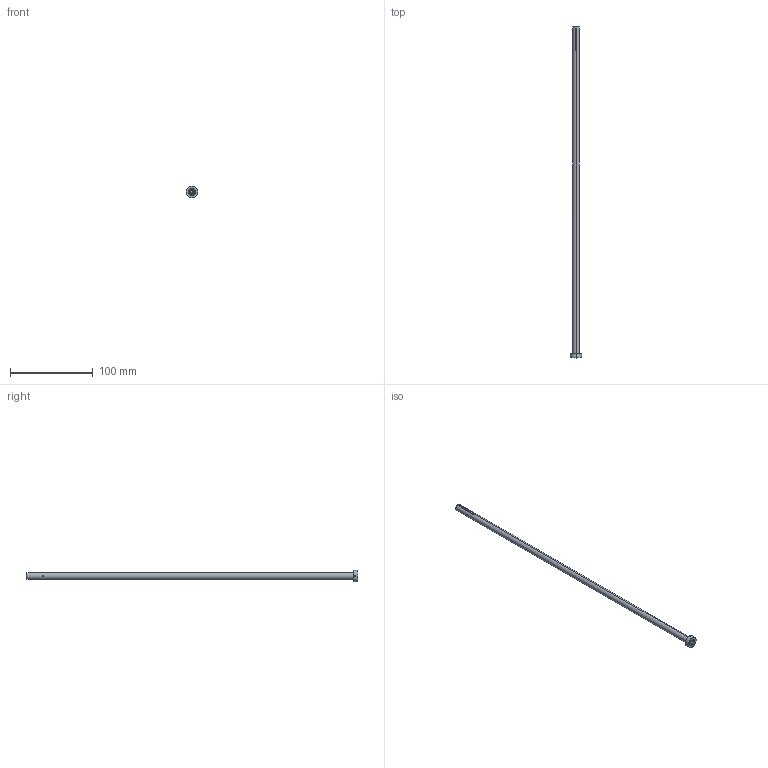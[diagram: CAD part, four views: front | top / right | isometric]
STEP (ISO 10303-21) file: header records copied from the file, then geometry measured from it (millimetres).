
FILE_DESCRIPTION (( 'STEP AP203' ), '1' );
FILE_NAME ('SGDE-807Cx400.STEP', '2017-01-10T15:45:27', ( 'Balzi' ), ( '' ), 'SwSTEP 2.0', 'SolidWorks 2016', '' );
FILE_SCHEMA (( 'CONFIG_CONTROL_DESIGN' ));
Length unit declared in the file: millimetre
Products named in the file (1): SGDE-807Cx400
Bounding box: 14 x 401.2 x 14 mm (x, y, z)
Volume: 12451 mm3; surface area: 17618 mm2
Topology: 1 solids, 1 shells, 86 faces, 238 edges, 156 vertices
Faces by surface type: cylinder 48, plane 32, cone 6
Entity records: 3363 total; most frequent: CARTESIAN_POINT 1085, ORIENTED_EDGE 476, DIRECTION 432, EDGE_CURVE 238, AXIS2_PLACEMENT_3D 159, VERTEX_POINT 156, VECTOR 114, LINE 114
